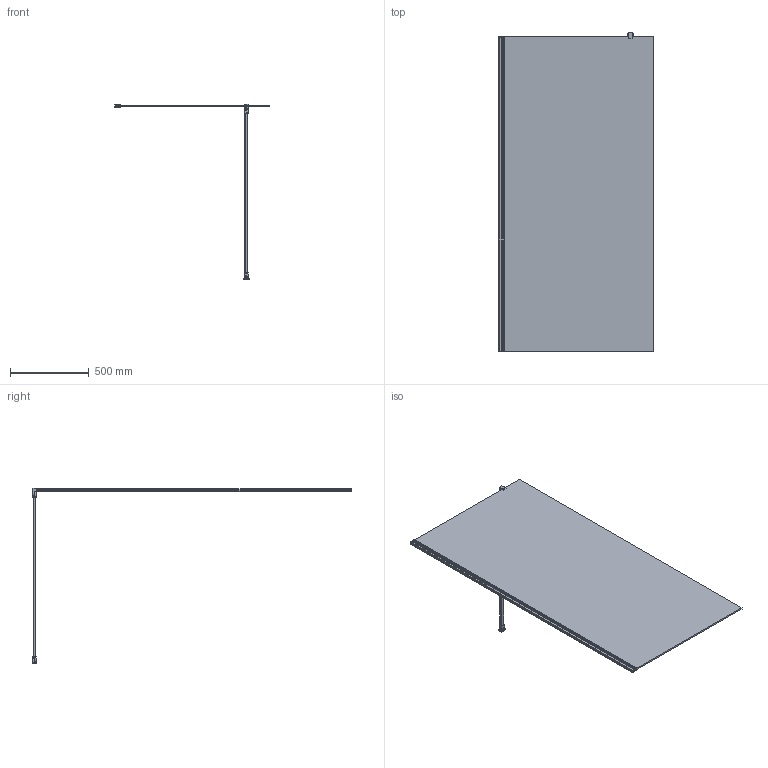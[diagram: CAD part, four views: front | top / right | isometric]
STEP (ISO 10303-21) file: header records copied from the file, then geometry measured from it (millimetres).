
FILE_DESCRIPTION(/* description */ (''),/* implementation_level */ '2;1');
FILE_NAME(/* name */ 'c:\worker\convert-fusion-apr-2019\tmp\job-1\13\output\files\be470768-79d6-45fa-b389-1d22f6c5f9d4\2c1ac188-1934-4335-a097-ca339e93d648.stp',/* time_stamp */ '2019-05-09T06:51:53+00:00',/* author */ (''),/* organization */ (''),/* preprocessor_version */ 'ST-DEVELOPER v18',/* originating_system */ 'Autodesk Translation Framework v8.2.0.1029',/* authorisation */ '');
FILE_SCHEMA (('AUTOMOTIVE_DESIGN { 1 0 10303 214 3 1 1 }'));
Length unit declared in the file: millimetre
Products named in the file (1): DNR10X
Bounding box: 982.5 x 2024 x 1112.86 mm (x, y, z)
Volume: 19338141.5 mm3; surface area: 4674684.6 mm2
Topology: 14 solids, 14 shells, 724 faces, 1830 edges, 1132 vertices
Faces by surface type: cylinder 339, plane 304, torus 32, bspline 23, sphere 22, cone 4
Full cylindrical faces by diameter (mm): 3.5 x2, 6.048 x30, 6.908 x32, 7 x2
Entity records: 25191 total; most frequent: CARTESIAN_POINT 7682, DIRECTION 3692, ORIENTED_EDGE 3640, EDGE_CURVE 1820, AXIS2_PLACEMENT_3D 1288, VERTEX_POINT 1132, LINE 1116, VECTOR 1116
